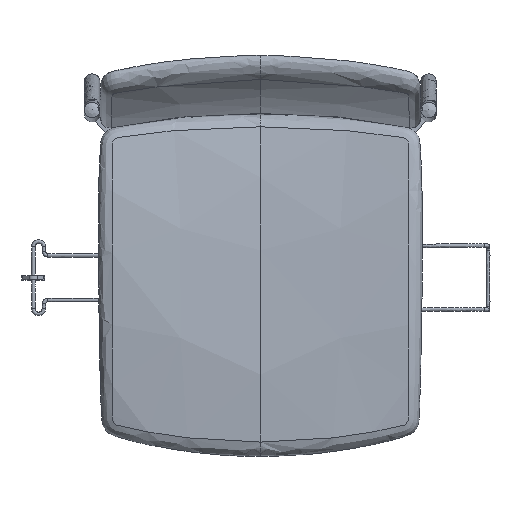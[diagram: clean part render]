
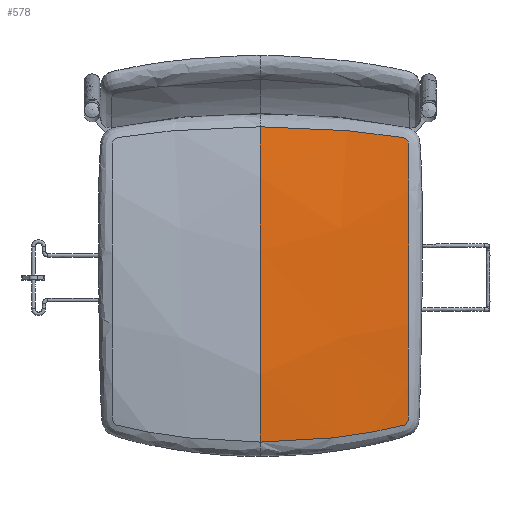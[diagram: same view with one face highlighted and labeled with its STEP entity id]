
A CAD part, top view. The second image highlights one B-rep face of the part: STEP entity #578.
In plain terms, the highlighted free-form (B-spline) face has degree [3, 3] with [6, 5] control points.
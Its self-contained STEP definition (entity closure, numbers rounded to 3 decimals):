
#23=B_SPLINE_SURFACE_WITH_KNOTS('',3,3,((#7124,#7125,#7126,#7127,#7128),
(#7129,#7130,#7131,#7132,#7133),(#7134,#7135,#7136,#7137,#7138),(#7139,
#7140,#7141,#7142,#7143),(#7144,#7145,#7146,#7147,#7148),(#7149,#7150,#7151,
#7152,#7153)),.UNSPECIFIED.,.F.,.F.,.F.,(4,1,1,4),(4,1,4),(0.,150.405,
300.811,451.216),(0.,113.023,226.045),
 .UNSPECIFIED.);
#109=B_SPLINE_CURVE_WITH_KNOTS('',3,(#7752,#7753,#7754,#7755,#7756,#7757),
 .UNSPECIFIED.,.F.,.F.,(4,1,1,4),(14.636,150.405,300.811,
436.736),.UNSPECIFIED.);
#112=B_SPLINE_CURVE_WITH_KNOTS('',3,(#7828,#7829,#7830,#7831,#7832,#7833,
#7834,#7835,#7836,#7837,#7838,#7839,#7840,#7841,#7842,#7843,#7844,#7845,
#7846,#7847,#7848,#7849,#7850,#7851,#7852,#7853,#7854,#7855,#7856,#7857,
#7858,#7859,#7860,#7861,#7862,#7863,#7864,#7865,#7866,#7867,#7868,#7869,
#7870,#7871,#7872,#7873,#7874,#7875,#7876,#7877,#7878,#7879,#7880,#7881,
#7882,#7883,#7884,#7885,#7886,#7887,#7888,#7889,#7890,#7891,#7892,#7893),
 .UNSPECIFIED.,.F.,.F.,(4,2,2,2,1,1,1,2,2,2,2,2,1,1,1,2,2,2,2,2,2,2,2,2,
1,1,1,2,2,2,2,2,1,1,1,2,2,2,4),(-834.547,-732.977,-707.585,
-682.192,-634.077,-631.407,-628.738,
-626.069,-623.399,-620.73,-618.061,
-615.391,-612.722,-610.053,-607.384,
-561.831,-513.608,-489.497,-465.386,
-417.164,-368.942,-344.831,-320.72,
-272.498,-226.987,-224.275,-221.564,
-218.853,-216.141,-213.43,-210.718,
-208.007,-205.295,-202.584,-199.872,
-151.938,-126.615,-101.292,0.),.UNSPECIFIED.);
#578=ADVANCED_FACE('',(#737),#23,.T.);
#737=FACE_OUTER_BOUND('',#900,.T.);
#900=EDGE_LOOP('',(#1335,#1336));
#1335=ORIENTED_EDGE('',*,*,#1749,.F.);
#1336=ORIENTED_EDGE('',*,*,#1752,.F.);
#1749=EDGE_CURVE('',#2172,#2171,#109,.T.);
#1752=EDGE_CURVE('',#2171,#2172,#112,.T.);
#2171=VERTEX_POINT('',#7744);
#2172=VERTEX_POINT('',#7745);
#7124=CARTESIAN_POINT('',(222.5,-257.5,447.92));
#7125=CARTESIAN_POINT('',(186.336,-267.419,456.436));
#7126=CARTESIAN_POINT('',(112.582,-282.432,461.217));
#7127=CARTESIAN_POINT('',(37.527,-287.459,461.479));
#7128=CARTESIAN_POINT('',(0.,-287.459,461.479));
#7129=CARTESIAN_POINT('',(222.5,-210.234,456.665));
#7130=CARTESIAN_POINT('',(186.401,-218.252,466.09));
#7131=CARTESIAN_POINT('',(112.677,-230.383,469.207));
#7132=CARTESIAN_POINT('',(37.559,-234.444,468.909));
#7133=CARTESIAN_POINT('',(0.,-234.444,468.909));
#7134=CARTESIAN_POINT('',(222.5,-115.677,460.522));
#7135=CARTESIAN_POINT('',(186.531,-119.935,467.649));
#7136=CARTESIAN_POINT('',(112.867,-126.362,463.263));
#7137=CARTESIAN_POINT('',(37.622,-128.511,461.788));
#7138=CARTESIAN_POINT('',(0.,-128.511,461.788));
#7139=CARTESIAN_POINT('',(222.5,26.117,455.406));
#7140=CARTESIAN_POINT('',(186.726,27.366,458.741));
#7141=CARTESIAN_POINT('',(113.151,29.293,448.584));
#7142=CARTESIAN_POINT('',(37.717,29.944,445.172));
#7143=CARTESIAN_POINT('',(0.,29.944,445.172));
#7144=CARTESIAN_POINT('',(222.5,120.418,444.736));
#7145=CARTESIAN_POINT('',(186.856,125.229,445.319));
#7146=CARTESIAN_POINT('',(113.341,132.56,434.981));
#7147=CARTESIAN_POINT('',(37.78,135.024,430.165));
#7148=CARTESIAN_POINT('',(0.,135.024,430.165));
#7149=CARTESIAN_POINT('',(222.5,167.5,432.588));
#7150=CARTESIAN_POINT('',(186.92,174.063,429.741));
#7151=CARTESIAN_POINT('',(113.436,184.054,417.229));
#7152=CARTESIAN_POINT('',(37.812,187.409,411.683));
#7153=CARTESIAN_POINT('',(0.,187.409,411.683));
#7744=CARTESIAN_POINT('',(0.,172.275,416.725));
#7745=CARTESIAN_POINT('',(0.,-271.984,463.345));
#7752=CARTESIAN_POINT('',(0.,-271.984,463.345));
#7753=CARTESIAN_POINT('',(0.,-224.136,468.206));
#7754=CARTESIAN_POINT('',(0.,-123.372,461.249));
#7755=CARTESIAN_POINT('',(0.,24.859,445.705));
#7756=CARTESIAN_POINT('',(0.,124.906,431.601));
#7757=CARTESIAN_POINT('',(0.,172.275,416.725));
#7828=CARTESIAN_POINT('',(0.,172.275,416.725));
#7829=CARTESIAN_POINT('',(33.428,172.274,416.725));
#7830=CARTESIAN_POINT('',(66.833,171.067,418.808));
#7831=CARTESIAN_POINT('',(108.273,168.045,423.155));
#7832=CARTESIAN_POINT('',(116.546,167.365,424.119));
#7833=CARTESIAN_POINT('',(133.064,165.851,426.169));
#7834=CARTESIAN_POINT('',(141.303,165.018,427.245));
#7835=CARTESIAN_POINT('',(165.179,162.377,430.343));
#7836=CARTESIAN_POINT('',(181.515,160.261,432.451));
#7837=CARTESIAN_POINT('',(199.038,157.674,434.137));
#7838=CARTESIAN_POINT('',(200.949,157.297,434.337));
#7839=CARTESIAN_POINT('',(202.303,156.803,434.534));
#7840=CARTESIAN_POINT('',(203.554,156.216,434.745));
#7841=CARTESIAN_POINT('',(204.158,155.865,434.863));
#7842=CARTESIAN_POINT('',(205.273,155.048,435.12));
#7843=CARTESIAN_POINT('',(205.785,154.581,435.26));
#7844=CARTESIAN_POINT('',(206.691,153.546,435.555));
#7845=CARTESIAN_POINT('',(207.084,152.978,435.71));
#7846=CARTESIAN_POINT('',(207.737,151.775,436.029));
#7847=CARTESIAN_POINT('',(207.999,151.137,436.193));
#7848=CARTESIAN_POINT('',(208.399,149.838,436.519));
#7849=CARTESIAN_POINT('',(208.689,148.451,436.857));
#7850=CARTESIAN_POINT('',(208.776,146.557,437.302));
#7851=CARTESIAN_POINT('',(208.742,129.822,441.126));
#7852=CARTESIAN_POINT('',(208.749,114.125,444.006));
#7853=CARTESIAN_POINT('',(208.73,83.211,448.722));
#7854=CARTESIAN_POINT('',(208.724,67.267,450.629));
#7855=CARTESIAN_POINT('',(208.712,43.289,453.027));
#7856=CARTESIAN_POINT('',(208.709,35.291,453.748));
#7857=CARTESIAN_POINT('',(208.701,19.285,455.088));
#7858=CARTESIAN_POINT('',(208.697,11.276,455.707));
#7859=CARTESIAN_POINT('',(208.686,-12.757,457.414));
#7860=CARTESIAN_POINT('',(208.678,-28.794,458.35));
#7861=CARTESIAN_POINT('',(208.663,-60.887,459.815));
#7862=CARTESIAN_POINT('',(208.656,-76.942,460.344));
#7863=CARTESIAN_POINT('',(208.644,-101.031,460.833));
#7864=CARTESIAN_POINT('',(208.641,-109.063,460.945));
#7865=CARTESIAN_POINT('',(208.633,-125.124,461.068));
#7866=CARTESIAN_POINT('',(208.629,-133.157,461.078));
#7867=CARTESIAN_POINT('',(208.618,-157.252,460.877));
#7868=CARTESIAN_POINT('',(208.609,-173.304,460.433));
#7869=CARTESIAN_POINT('',(208.599,-204.505,458.545));
#7870=CARTESIAN_POINT('',(208.578,-220.395,457.101));
#7871=CARTESIAN_POINT('',(208.596,-237.426,454.773));
#7872=CARTESIAN_POINT('',(208.506,-239.362,454.519));
#7873=CARTESIAN_POINT('',(208.218,-240.795,454.378));
#7874=CARTESIAN_POINT('',(207.826,-242.142,454.27));
#7875=CARTESIAN_POINT('',(207.57,-242.807,454.23));
#7876=CARTESIAN_POINT('',(206.935,-244.072,454.185));
#7877=CARTESIAN_POINT('',(206.555,-244.674,454.18));
#7878=CARTESIAN_POINT('',(205.68,-245.787,454.206));
#7879=CARTESIAN_POINT('',(205.185,-246.298,454.238));
#7880=CARTESIAN_POINT('',(204.107,-247.21,454.334));
#7881=CARTESIAN_POINT('',(203.522,-247.613,454.4));
#7882=CARTESIAN_POINT('',(202.306,-248.306,454.554));
#7883=CARTESIAN_POINT('',(200.982,-248.912,454.74));
#7884=CARTESIAN_POINT('',(199.118,-249.435,455.046));
#7885=CARTESIAN_POINT('',(181.911,-253.338,457.888));
#7886=CARTESIAN_POINT('',(165.65,-256.584,459.503));
#7887=CARTESIAN_POINT('',(141.78,-260.666,461.076));
#7888=CARTESIAN_POINT('',(133.518,-261.96,461.471));
#7889=CARTESIAN_POINT('',(116.939,-264.316,462.095));
#7890=CARTESIAN_POINT('',(108.632,-265.377,462.33));
#7891=CARTESIAN_POINT('',(67.022,-270.093,463.307));
#7892=CARTESIAN_POINT('',(33.509,-271.984,463.344));
#7893=CARTESIAN_POINT('',(0.,-271.984,463.345));
